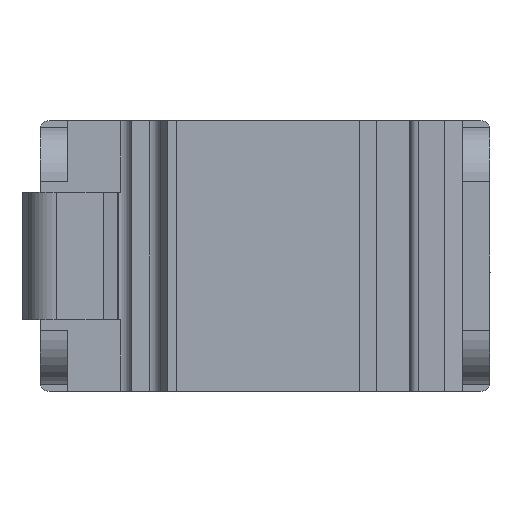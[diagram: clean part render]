
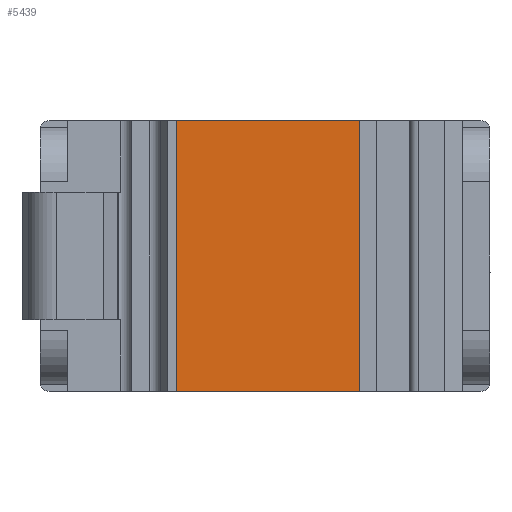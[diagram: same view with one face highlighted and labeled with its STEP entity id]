
A CAD part, front view. The second image highlights one B-rep face of the part: STEP entity #5439.
In plain terms, the highlighted planar face has unit normal (0, -1, 0).
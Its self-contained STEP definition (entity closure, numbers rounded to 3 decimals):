
#91=DIRECTION('',(1.,0.,0.));
#92=VECTOR('',#91,20.157);
#93=CARTESIAN_POINT('',(-9.749,-38.004,-14.9));
#94=LINE('',#93,#92);
#253=DIRECTION('',(1.,0.,0.));
#254=VECTOR('',#253,20.157);
#255=CARTESIAN_POINT('',(-9.749,-38.004,14.9));
#256=LINE('',#255,#254);
#1839=DIRECTION('',(0.,0.,1.));
#1840=VECTOR('',#1839,29.8);
#1841=CARTESIAN_POINT('',(10.408,-38.004,-14.9));
#1842=LINE('',#1841,#1840);
#1843=DIRECTION('',(0.,0.,1.));
#1844=VECTOR('',#1843,29.8);
#1845=CARTESIAN_POINT('',(-9.749,-38.004,-14.9));
#1846=LINE('',#1845,#1844);
#2444=CARTESIAN_POINT('',(-9.749,-38.004,-14.9));
#2445=VERTEX_POINT('',#2444);
#2446=CARTESIAN_POINT('',(10.408,-38.004,-14.9));
#2447=VERTEX_POINT('',#2446);
#2498=CARTESIAN_POINT('',(-9.749,-38.004,14.9));
#2499=VERTEX_POINT('',#2498);
#2500=CARTESIAN_POINT('',(10.408,-38.004,14.9));
#2501=VERTEX_POINT('',#2500);
#5427=CARTESIAN_POINT('',(-9.749,-38.004,-14.9));
#5428=DIRECTION('',(0.,-1.,0.));
#5429=DIRECTION('',(1.,0.,0.));
#5430=AXIS2_PLACEMENT_3D('',#5427,#5428,#5429);
#5431=PLANE('',#5430);
#5432=ORIENTED_EDGE('',*,*,#3105,.F.);
#5434=ORIENTED_EDGE('',*,*,#5433,.T.);
#5435=ORIENTED_EDGE('',*,*,#3253,.T.);
#5436=ORIENTED_EDGE('',*,*,#5420,.F.);
#5437=EDGE_LOOP('',(#5432,#5434,#5435,#5436));
#5438=FACE_OUTER_BOUND('',#5437,.F.);
#3105=EDGE_CURVE('',#2445,#2447,#94,.T.);
#3253=EDGE_CURVE('',#2499,#2501,#256,.T.);
#5420=EDGE_CURVE('',#2447,#2501,#1842,.T.);
#5433=EDGE_CURVE('',#2445,#2499,#1846,.T.);
#5439=ADVANCED_FACE('',(#5438),#5431,.T.);
